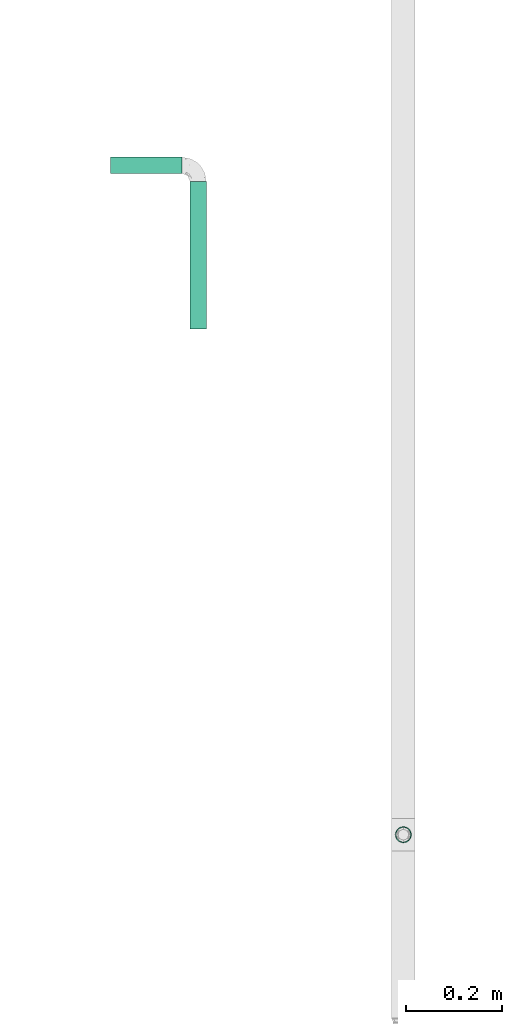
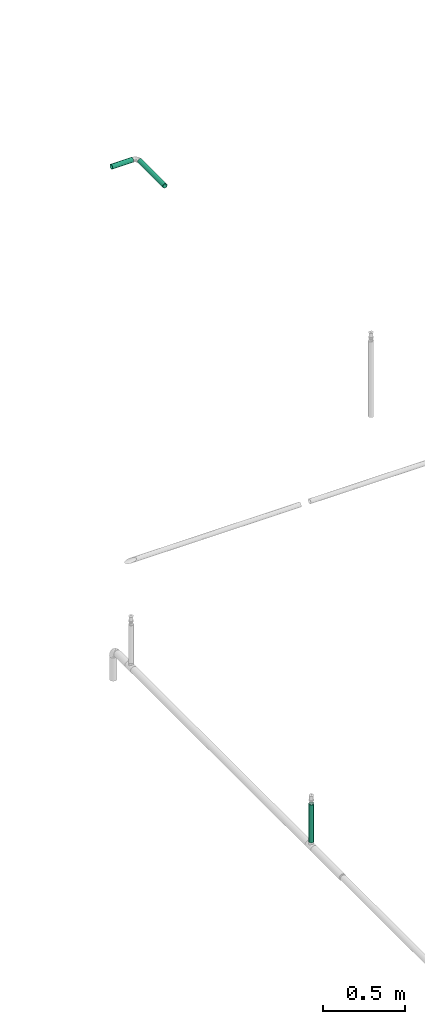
# One storey, part 6 of 63: 3 flow segments.
"""IFC2X3 building model written with IfcOpenShell, lengths in millimetres."""

from ifc_helpers import new_model, entity, si_unit, converted_unit, derived_unit, direction, frame, origin_with_axes, origin_2d_with_axis, place, context, subcontext, project, spatial, hollow_circle, extrude, source, transform, mapped, type_object, element, save


model = new_model("IFC2X3")

# Units and contexts
model_context = context("Model", 3, precision=0.01, world=frame((0.0, 4.29681676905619e-09, 0.0)), true_north=direction((4.01073788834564e-13, 1.0)))
plan_context = context("Plan", 3, precision=0.01, world=frame((0.0, 4.29681676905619e-09, 0.0)), true_north=direction((4.01073788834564e-13, 1.0)))
body_context = subcontext(model_context, "Body", "Model", "MODEL_VIEW")
ifc_project = project(units=[converted_unit("PLANEANGLEUNIT", "DEGREE", entity("IfcPositiveLengthMeasure", 0.0174532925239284), si_unit("PLANEANGLEUNIT", "RADIAN"), dimensions=[0, 0, 0, 0, 0, 0, 0]), si_unit("AREAUNIT", "SQUARE_METRE"), si_unit("LENGTHUNIT", "METRE", prefix="MILLI"), si_unit("MASSUNIT", "GRAM", prefix="KILO"), si_unit("POWERUNIT", "WATT"), si_unit("PRESSUREUNIT", "PASCAL", prefix="KILO"), si_unit("FORCEUNIT", "NEWTON", prefix="KILO"), si_unit("ELECTRICVOLTAGEUNIT", "VOLT"), si_unit("ELECTRICCURRENTUNIT", "AMPERE"), si_unit("THERMODYNAMICTEMPERATUREUNIT", "DEGREE_CELSIUS"), si_unit("TIMEUNIT", "SECOND"), si_unit("VOLUMEUNIT", "CUBIC_METRE"), derived_unit("LINEARVELOCITYUNIT", [(si_unit("LENGTHUNIT", "METRE"), 1), (si_unit("TIMEUNIT", "SECOND"), -1)]), derived_unit("VOLUMETRICFLOWRATEUNIT", [(si_unit("VOLUMEUNIT", "CUBIC_METRE"), 1), (si_unit("TIMEUNIT", "SECOND"), -1)]), derived_unit("THERMALTRANSMITTANCEUNIT", [(si_unit("POWERUNIT", "WATT"), 1), (si_unit("THERMODYNAMICTEMPERATUREUNIT", "KELVIN"), -1), (si_unit("AREAUNIT", "SQUARE_METRE"), -1)]), derived_unit("SOUNDPRESSUREUNIT", [(si_unit("PRESSUREUNIT", "PASCAL"), 1)])], contexts=[model_context, plan_context])

# Site, building, storey
site_placement = place(None, frame((0.0, -4.29681676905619e-09, 0.0), z_axis=(0.0, 0.0, 1.0), x_axis=(1.0, 0.0, 0.0)))
site = spatial("IfcSite", under=ifc_project, at=site_placement, CompositionType="ELEMENT")
building_placement = place(site_placement, frame((0.0, 4.29681676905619e-09, 0.0), z_axis=(0.0, 0.0, 1.0), x_axis=(1.0, 0.0, 0.0)))
building = spatial("IfcBuilding", under=site, at=building_placement, Name="mc-building", CompositionType="ELEMENT")
storey_placement = place(building_placement, frame((0.0, 0.0, 207370.0), z_axis=(0.0, 0.0, 1.0), x_axis=(1.0, 0.0, 0.0)))
storey = spatial("IfcBuildingStorey", under=building, at=storey_placement, Name="Nivå E", CompositionType="ELEMENT", Elevation=207370.0)

# Flow segments
pipe_segment_type = type_object("IfcPipeSegmentType", Name="Stålrør normaltykke", PredefinedType="RIGIDSEGMENT")
shared_shape_1 = source(origin_with_axes(), body_context, "Body", "SweptSolid", [
    extrude(hollow_circle(Radius=16.9, WallThickness=2.0, at=origin_2d_with_axis()), frame((0.0, 0.0, 0.0), z_axis=(1.0, 0.0, 0.0), x_axis=(0.0, 1.0, 0.0)), (0.0, 0.0, 1.0), 282.1),
])
flow_segment_1_placement = place(storey_placement, frame((719641.29045, 437211.81651, 2736.29999999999), z_axis=(1.0, 0.0, 0.0), x_axis=(0.0, 0.0, 1.0)))
element("IfcFlowSegment", 1, at=flow_segment_1_placement, inside=storey, type_object=pipe_segment_type, Name="Stålrør normaltykke", context=body_context, shape_type="MappedRepresentation", body=[
    mapped(shared_shape_1, transform((0.0, 0.0, 0.0), scale=1.0)),
])
shared_shape_2 = source(origin_with_axes(), body_context, "Body", "SweptSolid", [
    extrude(hollow_circle(Radius=16.9, WallThickness=2.0, at=origin_2d_with_axis()), frame((0.0, 0.0, 0.0), z_axis=(1.0, 0.0, 0.0), x_axis=(0.0, 1.0, 0.0)), (0.0, 0.0, 1.0), 305.9),
])
flow_segment_2_placement = place(storey_placement, frame((719215.77033, 438261.03424, 7130.0), z_axis=(0.0, 0.0, 1.0), x_axis=(0.0, 1.0, 0.0)))
element("IfcFlowSegment", 2, at=flow_segment_2_placement, inside=storey, type_object=pipe_segment_type, Name="Stålrør normaltykke", context=body_context, shape_type="MappedRepresentation", body=[
    mapped(shared_shape_2, transform((0.0, 0.0, 0.0), scale=1.0)),
])
shared_shape_3 = source(origin_with_axes(), body_context, "Body", "SweptSolid", [
    extrude(hollow_circle(Radius=16.9, WallThickness=2.0, at=origin_2d_with_axis()), frame((0.0, 0.0, 0.0), z_axis=(1.0, 0.0, 0.0), x_axis=(0.0, 1.0, 0.0)), (0.0, 0.0, 1.0), 148.2),
])
flow_segment_3_placement = place(storey_placement, frame((719033.8, 438600.7, 7130.0), z_axis=(0.0, 0.0, 1.0), x_axis=(1.0, 0.0, 0.0)))
element("IfcFlowSegment", 3, at=flow_segment_3_placement, inside=storey, type_object=pipe_segment_type, Name="Stålrør normaltykke", context=body_context, shape_type="MappedRepresentation", body=[
    mapped(shared_shape_3, transform((0.0, 0.0, 0.0), scale=1.0)),
])

save(model, "model.ifc")
